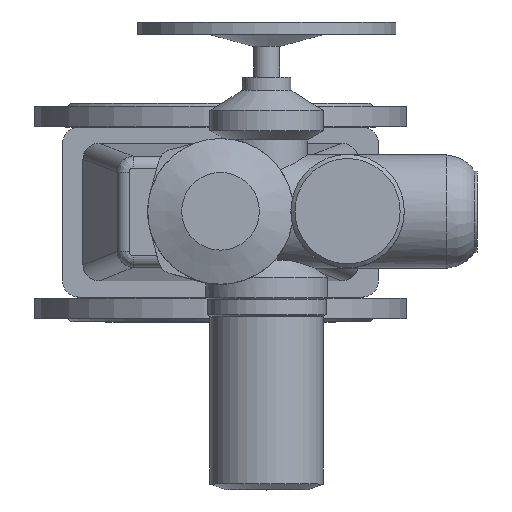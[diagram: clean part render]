
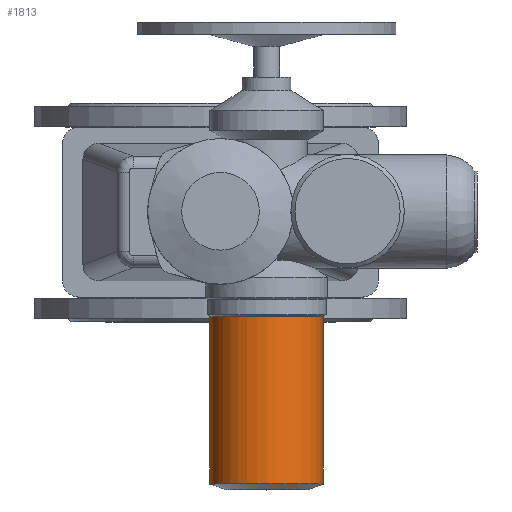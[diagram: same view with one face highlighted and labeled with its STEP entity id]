
A CAD part, top view. The second image highlights one B-rep face of the part: STEP entity #1813.
In plain terms, the highlighted cylindrical face has radius 70 mm (diameter 140 mm), a full revolution.
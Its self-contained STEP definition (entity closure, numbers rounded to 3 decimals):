
#1813=ADVANCED_FACE('',(#3761,#3763),#3765,.T.);
#3761=FACE_OUTER_BOUND('',#3762,.T.);
#3762=EDGE_LOOP('',(#4655));
#3763=FACE_OUTER_BOUND('',#3764,.T.);
#3764=EDGE_LOOP('',(#4656));
#3765=CYLINDRICAL_SURFACE('',#3766,70.);
#3766=AXIS2_PLACEMENT_3D('',#3767,#3768,#3769);
#3767=CARTESIAN_POINT('',(57.,-336.721,724.));
#3768=DIRECTION('',(0.,1.,0.));
#3769=DIRECTION('',(0.,0.,1.));
#4655=ORIENTED_EDGE('',*,*,#5094,.F.);
#4656=ORIENTED_EDGE('',*,*,#5095,.T.);
#5094=EDGE_CURVE('',#5851,#5851,#5852,.T.);
#5095=EDGE_CURVE('',#5853,#5853,#5854,.T.);
#5851=VERTEX_POINT('',#8778);
#5852=CIRCLE('',#8779,70.);
#5853=VERTEX_POINT('',#8783);
#5854=CIRCLE('',#8784,70.);
#8778=CARTESIAN_POINT('',(57.,-129.807,794.));
#8779=AXIS2_PLACEMENT_3D('',#8780,#8781,#8782);
#8780=CARTESIAN_POINT('',(57.,-129.807,724.));
#8781=DIRECTION('',(0.,1.,0.));
#8782=DIRECTION('',(0.,0.,1.));
#8783=CARTESIAN_POINT('',(57.,-336.721,794.));
#8784=AXIS2_PLACEMENT_3D('',#8785,#8786,#8787);
#8785=CARTESIAN_POINT('',(57.,-336.721,724.));
#8786=DIRECTION('',(0.,1.,0.));
#8787=DIRECTION('',(0.,0.,1.));
